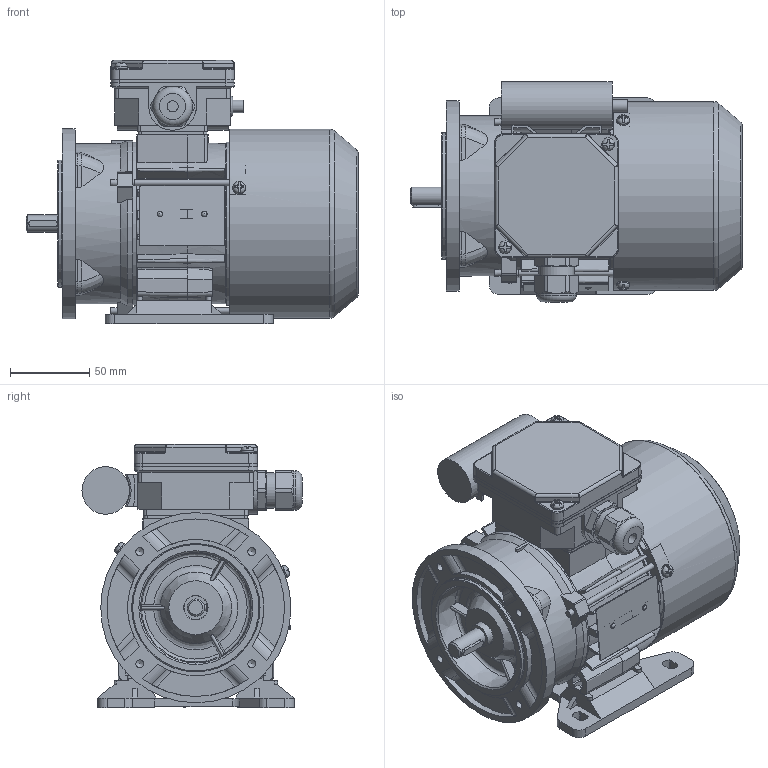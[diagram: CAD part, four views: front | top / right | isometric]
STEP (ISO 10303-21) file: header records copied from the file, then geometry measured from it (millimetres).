
FILE_DESCRIPTION(/* description */ ('Unknown'),/* implementation_level */ '2;1');
FILE_NAME(/* name */ '3SSIEL63-2A1',/* time_stamp */ '2024-06-28T11:21:01+02:00',/* author */ ('Unknown'),/* organization */ ('Unknown'),/* preprocessor_version */ 'ST-DEVELOPER v16.7',/* originating_system */ 'Solid Edge',/* authorisation */ 'Unknown');
FILE_SCHEMA (('AUTOMOTIVE_DESIGN {1 0 10303 214 3 1 1}'));
Length unit declared in the file: millimetre
Products named in the file (1): Czêœæ10
Bounding box: 209.49 x 138.82 x 166 mm (x, y, z)
Volume: 621695.3 mm3; surface area: 353429.9 mm2
Topology: 3 solids, 3 shells, 2036 faces, 5764 edges, 3755 vertices
Faces by surface type: plane 1054, cylinder 597, torus 131, bspline 118, cone 115, sphere 21
Full cylindrical faces by diameter (mm): 2.4 x2, 3 x1, 3.7 x7, 4 x8, 4.5 x5, 4.6 x1, 4.8 x2, 5 x6, 5.8 x4, 6.5 x1, 7 x4, 7.999 x1, 8 x6, 10.999 x1, 12.899 x1, 13.099 x1, 14.998 x2, 15.4 x2, 18.998 x2, 19.498 x1, 19.998 x1, 20.098 x1, 21.518 x4, 22.3 x1, 25 x1, 28 x2, 28.48 x4, 29.997 x1, 31 x2, 32 x1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
Entity records: 82594 total; most frequent: CARTESIAN_POINT 17565, ORIENTED_EDGE 10848, DIRECTION 10110, EDGE_CURVE 5424, AXIS2_PLACEMENT_3D 3673, VERTEX_POINT 3628, LINE 2764, VECTOR 2764
